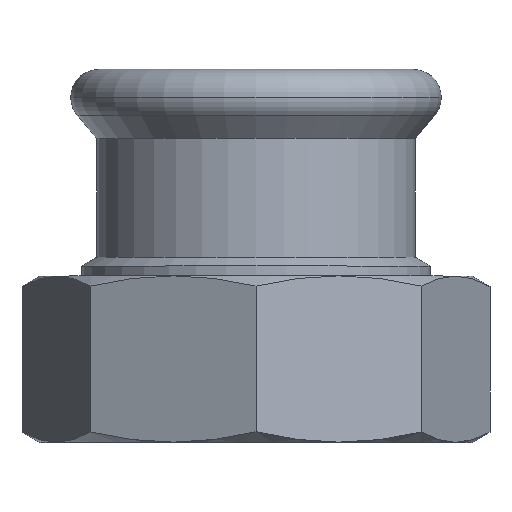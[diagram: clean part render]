
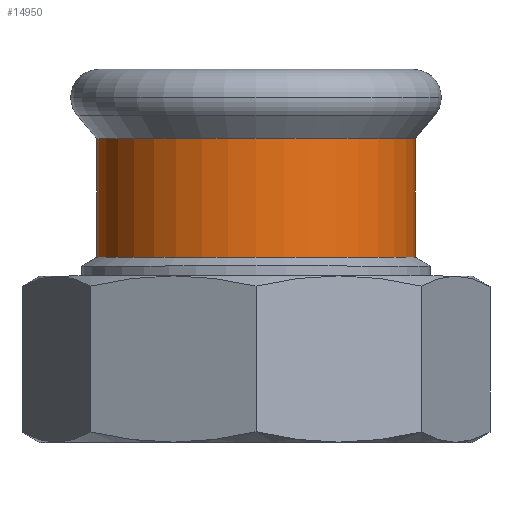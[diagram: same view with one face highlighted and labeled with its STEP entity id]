
A CAD part, top view. The second image highlights one B-rep face of the part: STEP entity #14950.
In plain terms, the highlighted cylindrical face has radius 19.15 mm (diameter 38.3 mm), a partial arc.
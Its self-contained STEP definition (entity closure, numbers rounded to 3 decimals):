
#2910=CARTESIAN_POINT('',(190.738,40.015,
0.));
#2920=VERTEX_POINT('',#2910);
#3100=CARTESIAN_POINT('',(152.438,40.015,0.));
#3110=VERTEX_POINT('',#3100);
#3140=CARTESIAN_POINT('',(171.588,40.015,0.));
#3150=DIRECTION('',(0.,-1.,0.));
#3160=DIRECTION('',(-1.,0.,0.));
#3170=AXIS2_PLACEMENT_3D('',#3140,#3150,#3160);
#3180=CIRCLE('',#3170,19.15);
#3190=EDGE_CURVE('',#2920,#3110,#3180,.T.);
#14400=CARTESIAN_POINT('',(190.738,54.288,0.));
#14410=VERTEX_POINT('',#14400);
#14590=CARTESIAN_POINT('',(152.438,54.288,
0.));
#14600=VERTEX_POINT('',#14590);
#14630=CARTESIAN_POINT('',(171.588,54.288,0.));
#14640=DIRECTION('',(0.,1.,0.));
#14650=DIRECTION('',(-1.,0.,0.));
#14660=AXIS2_PLACEMENT_3D('',#14630,#14640,#14650);
#14670=CIRCLE('',#14660,19.15);
#14730=CARTESIAN_POINT('',(171.588,44.881,0.));
#14740=DIRECTION('',(0.,-1.,0.));
#14750=DIRECTION('',(-1.,0.,0.));
#14760=AXIS2_PLACEMENT_3D('',#14730,#14740,#14750);
#14770=CYLINDRICAL_SURFACE('',#14760,19.15);
#14780=CARTESIAN_POINT('',(152.438,44.881,0.));
#14790=DIRECTION('',(0.,-1.,0.));
#14800=VECTOR('',#14790,1.);
#14810=LINE('',#14780,#14800);
#14820=EDGE_CURVE('',#14600,#3110,#14810,.T.);
#14830=ORIENTED_EDGE('',*,*,#14820,.T.);
#14840=EDGE_CURVE('',#14600,#14410,#14670,.T.);
#14850=ORIENTED_EDGE('',*,*,#14840,.F.);
#14860=CARTESIAN_POINT('',(190.738,44.881,
0.));
#14870=DIRECTION('',(0.,-1.,0.));
#14880=VECTOR('',#14870,1.);
#14890=LINE('',#14860,#14880);
#14900=EDGE_CURVE('',#14410,#2920,#14890,.T.);
#14910=ORIENTED_EDGE('',*,*,#14900,.F.);
#14920=ORIENTED_EDGE('',*,*,#3190,.F.);
#14930=EDGE_LOOP('',(#14920,#14910,#14850,#14830));
#14940=FACE_OUTER_BOUND('',#14930,.T.);
#14950=ADVANCED_FACE('',(#14940),#14770,.T.);
